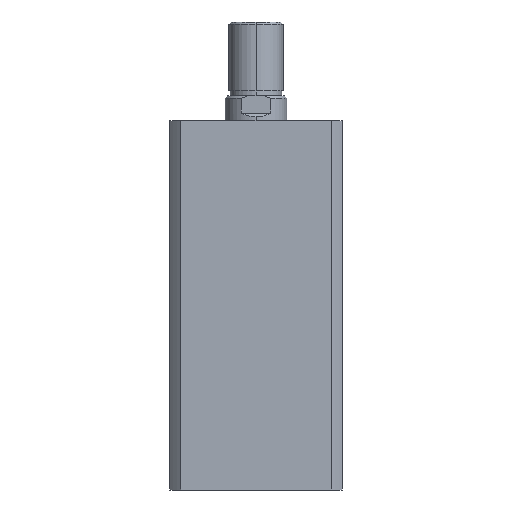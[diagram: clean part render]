
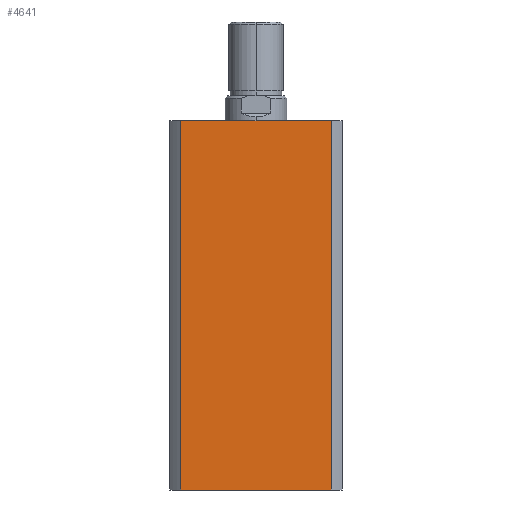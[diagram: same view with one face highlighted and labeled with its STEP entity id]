
A CAD part, left-side view. The second image highlights one B-rep face of the part: STEP entity #4641.
In plain terms, the highlighted planar face has unit normal (-1, 0, 0).
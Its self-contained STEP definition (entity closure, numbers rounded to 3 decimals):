
#570 = CARTESIAN_POINT ( 'NONE',  ( -35., 0., 150. ) ) ;
#574 = PLANE ( 'NONE',  #4795 ) ;
#576 = DIRECTION ( 'NONE',  ( 1., 0., 0. ) ) ;
#577 = DIRECTION ( 'NONE',  ( 0., 1., 0. ) ) ;
#844 = EDGE_LOOP ( 'NONE', ( #3240, #3241, #3242, #3243 ) ) ;
#934 = LINE ( 'NONE', #3605, #940 ) ;
#938 = LINE ( 'NONE', #3606, #944 ) ;
#939 = LINE ( 'NONE', #3601, #942 ) ;
#940 = VECTOR ( 'NONE', #3609, 1000. ) ;
#942 = VECTOR ( 'NONE', #3599, 1000. ) ;
#944 = VECTOR ( 'NONE', #3598, 1000. ) ;
#984 = LINE ( 'NONE', #2853, #986 ) ;
#986 = VECTOR ( 'NONE', #2854, 1000. ) ;
#2762 = VERTEX_POINT ( 'NONE', #2979 ) ;
#2810 = VERTEX_POINT ( 'NONE', #2970 ) ;
#2853 = CARTESIAN_POINT ( 'NONE',  ( -35., 0., 150. ) ) ;
#2854 = DIRECTION ( 'NONE',  ( 0., -1., 0. ) ) ;
#2865 = VERTEX_POINT ( 'NONE', #2967 ) ;
#2967 = CARTESIAN_POINT ( 'NONE',  ( -35., 30.615, 150. ) ) ;
#2970 = CARTESIAN_POINT ( 'NONE',  ( -35., -30.615, 150. ) ) ;
#2979 = CARTESIAN_POINT ( 'NONE',  ( -35., 30.615, 0. ) ) ;
#3109 = CARTESIAN_POINT ( 'NONE',  ( -35., -30.615, 0. ) ) ;
#3240 = ORIENTED_EDGE ( 'NONE', *, *, #3811, .T. ) ;
#3241 = ORIENTED_EDGE ( 'NONE', *, *, #3810, .F. ) ;
#3242 = ORIENTED_EDGE ( 'NONE', *, *, #3851, .F. ) ;
#3243 = ORIENTED_EDGE ( 'NONE', *, *, #3812, .T. ) ;
#3539 = VERTEX_POINT ( 'NONE', #3109 ) ;
#3598 = DIRECTION ( 'NONE',  ( 0., 0., -1. ) ) ;
#3599 = DIRECTION ( 'NONE',  ( 0., -1., 0. ) ) ;
#3601 = CARTESIAN_POINT ( 'NONE',  ( -35., 0., 0. ) ) ;
#3605 = CARTESIAN_POINT ( 'NONE',  ( -35., -30.615, 150. ) ) ;
#3606 = CARTESIAN_POINT ( 'NONE',  ( -35., 30.615, 150. ) ) ;
#3609 = DIRECTION ( 'NONE',  ( 0., 0., -1. ) ) ;
#3810 = EDGE_CURVE ( 'NONE', #2810, #3539, #934, .T. ) ;
#3811 = EDGE_CURVE ( 'NONE', #2762, #3539, #939, .T. ) ;
#3812 = EDGE_CURVE ( 'NONE', #2865, #2762, #938, .T. ) ;
#3851 = EDGE_CURVE ( 'NONE', #2865, #2810, #984, .T. ) ;
#4310 = FACE_OUTER_BOUND ( 'NONE', #844, .T. ) ;
#4641 = ADVANCED_FACE ( 'NONE', ( #4310 ), #574, .F. ) ;
#4795 = AXIS2_PLACEMENT_3D ( 'NONE', #570, #576, #577 ) ;
